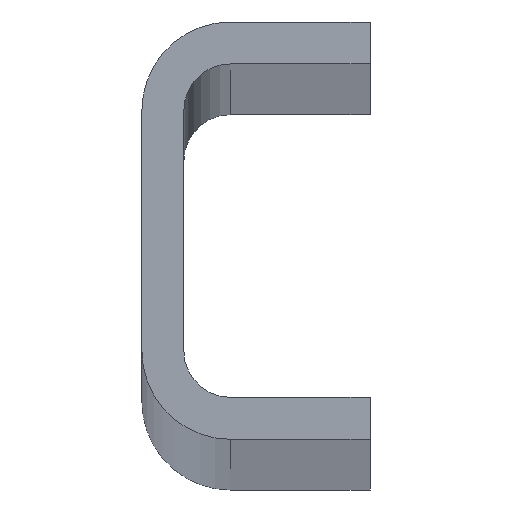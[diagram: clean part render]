
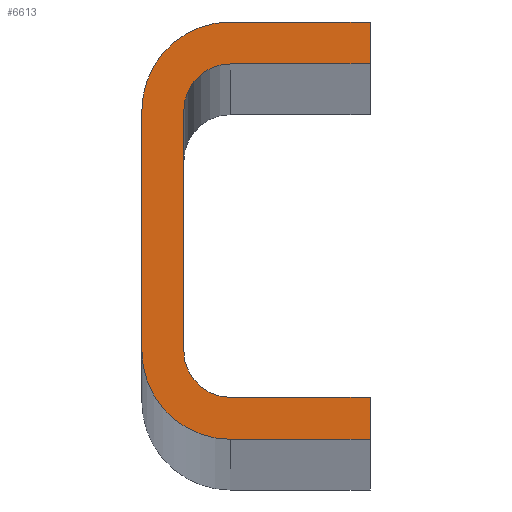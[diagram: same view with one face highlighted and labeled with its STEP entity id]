
A CAD part, top view. The second image highlights one B-rep face of the part: STEP entity #6613.
In plain terms, the highlighted planar face has unit normal (0, 0, 1).
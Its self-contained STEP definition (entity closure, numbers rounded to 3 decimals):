
#22 = DIRECTION ( 'NONE',  ( 1., 0., 0. ) ) ;
#177 = AXIS2_PLACEMENT_3D ( 'NONE', #3011, #840, #5262 ) ;
#234 = CARTESIAN_POINT ( 'NONE',  ( 9.5, -22.4, 0. ) ) ;
#306 = AXIS2_PLACEMENT_3D ( 'NONE', #6710, #2228, #5486 ) ;
#499 = VECTOR ( 'NONE', #5797, 1000. ) ;
#632 = CARTESIAN_POINT ( 'NONE',  ( 24.5, 22.4, 0. ) ) ;
#650 = CIRCLE ( 'NONE', #4773, 5. ) ;
#688 = LINE ( 'NONE', #2931, #4188 ) ;
#769 = DIRECTION ( 'NONE',  ( -1., 0., 0. ) ) ;
#840 = DIRECTION ( 'NONE',  ( 0., 0., -1. ) ) ;
#893 = EDGE_CURVE ( 'NONE', #6571, #5683, #3435, .T. ) ;
#927 = LINE ( 'NONE', #7208, #4386 ) ;
#993 = CARTESIAN_POINT ( 'NONE',  ( 4.5, -12.9, 0. ) ) ;
#1026 = PLANE ( 'NONE',  #306 ) ;
#1221 = LINE ( 'NONE', #632, #5092 ) ;
#1304 = ORIENTED_EDGE ( 'NONE', *, *, #893, .T. ) ;
#1519 = VERTEX_POINT ( 'NONE', #6818 ) ;
#1604 = VECTOR ( 'NONE', #769, 1000. ) ;
#1752 = CARTESIAN_POINT ( 'NONE',  ( 0., 12.9, 0. ) ) ;
#1923 = LINE ( 'NONE', #3620, #499 ) ;
#1987 = ORIENTED_EDGE ( 'NONE', *, *, #2776, .T. ) ;
#2070 = EDGE_CURVE ( 'NONE', #3218, #7287, #1923, .T. ) ;
#2077 = VERTEX_POINT ( 'NONE', #2985 ) ;
#2153 = AXIS2_PLACEMENT_3D ( 'NONE', #4117, #4704, #6943 ) ;
#2165 = CARTESIAN_POINT ( 'NONE',  ( 9.5, 17.9, 0. ) ) ;
#2228 = DIRECTION ( 'NONE',  ( 0., 0., 1. ) ) ;
#2243 = ORIENTED_EDGE ( 'NONE', *, *, #2070, .T. ) ;
#2386 = CIRCLE ( 'NONE', #2153, 9.5 ) ;
#2399 = ORIENTED_EDGE ( 'NONE', *, *, #6170, .T. ) ;
#2402 = ORIENTED_EDGE ( 'NONE', *, *, #3030, .T. ) ;
#2473 = EDGE_CURVE ( 'NONE', #4201, #3218, #927, .T. ) ;
#2609 = ORIENTED_EDGE ( 'NONE', *, *, #4248, .T. ) ;
#2685 = VERTEX_POINT ( 'NONE', #5009 ) ;
#2776 = EDGE_CURVE ( 'NONE', #5683, #5075, #2386, .T. ) ;
#2931 = CARTESIAN_POINT ( 'NONE',  ( 24.5, -22.4, 0. ) ) ;
#2985 = CARTESIAN_POINT ( 'NONE',  ( 24.5, -17.9, 0. ) ) ;
#2998 = CIRCLE ( 'NONE', #4295, 9.5 ) ;
#3011 = CARTESIAN_POINT ( 'NONE',  ( 9.5, -12.9, 0. ) ) ;
#3030 = EDGE_CURVE ( 'NONE', #2685, #7096, #3082, .T. ) ;
#3082 = LINE ( 'NONE', #993, #6404 ) ;
#3218 = VERTEX_POINT ( 'NONE', #5290 ) ;
#3231 = DIRECTION ( 'NONE',  ( 0., 1., 0. ) ) ;
#3276 = CARTESIAN_POINT ( 'NONE',  ( 24.5, -22.4, 0. ) ) ;
#3299 = CARTESIAN_POINT ( 'NONE',  ( 0., 12.9, 0. ) ) ;
#3355 = CARTESIAN_POINT ( 'NONE',  ( 0., -12.9, 0. ) ) ;
#3369 = DIRECTION ( 'NONE',  ( 1., 0., 0. ) ) ;
#3377 = EDGE_CURVE ( 'NONE', #7287, #4458, #1221, .T. ) ;
#3396 = ORIENTED_EDGE ( 'NONE', *, *, #6250, .T. ) ;
#3435 = LINE ( 'NONE', #1752, #5795 ) ;
#3620 = CARTESIAN_POINT ( 'NONE',  ( 24.5, 17.9, 0. ) ) ;
#3686 = DIRECTION ( 'NONE',  ( 1., 0., 0. ) ) ;
#3790 = DIRECTION ( 'NONE',  ( -1., 0., 0. ) ) ;
#3919 = LINE ( 'NONE', #6175, #5135 ) ;
#3932 = DIRECTION ( 'NONE',  ( 0., 0., -1. ) ) ;
#4116 = CARTESIAN_POINT ( 'NONE',  ( 24.5, -17.9, 0. ) ) ;
#4117 = CARTESIAN_POINT ( 'NONE',  ( 9.5, -12.9, 0. ) ) ;
#4188 = VECTOR ( 'NONE', #6262, 1000. ) ;
#4201 = VERTEX_POINT ( 'NONE', #2165 ) ;
#4248 = EDGE_CURVE ( 'NONE', #6207, #2077, #688, .T. ) ;
#4259 = CARTESIAN_POINT ( 'NONE',  ( 9.5, 22.4, 0. ) ) ;
#4295 = AXIS2_PLACEMENT_3D ( 'NONE', #4528, #6131, #22 ) ;
#4386 = VECTOR ( 'NONE', #3686, 1000. ) ;
#4442 = DIRECTION ( 'NONE',  ( 0., -1., 0. ) ) ;
#4445 = FACE_OUTER_BOUND ( 'NONE', #6722, .T. ) ;
#4458 = VERTEX_POINT ( 'NONE', #4259 ) ;
#4528 = CARTESIAN_POINT ( 'NONE',  ( 9.5, 12.9, 0. ) ) ;
#4628 = LINE ( 'NONE', #4116, #1604 ) ;
#4659 = ORIENTED_EDGE ( 'NONE', *, *, #2473, .T. ) ;
#4704 = DIRECTION ( 'NONE',  ( 0., 0., 1. ) ) ;
#4773 = AXIS2_PLACEMENT_3D ( 'NONE', #6750, #3932, #3790 ) ;
#5009 = CARTESIAN_POINT ( 'NONE',  ( 4.5, -12.9, 0. ) ) ;
#5045 = ORIENTED_EDGE ( 'NONE', *, *, #5663, .T. ) ;
#5075 = VERTEX_POINT ( 'NONE', #234 ) ;
#5092 = VECTOR ( 'NONE', #5726, 1000. ) ;
#5135 = VECTOR ( 'NONE', #3369, 1000. ) ;
#5262 = DIRECTION ( 'NONE',  ( -1., 0., 0. ) ) ;
#5290 = CARTESIAN_POINT ( 'NONE',  ( 24.5, 17.9, 0. ) ) ;
#5486 = DIRECTION ( 'NONE',  ( 1., 0., 0. ) ) ;
#5663 = EDGE_CURVE ( 'NONE', #4458, #6571, #2998, .T. ) ;
#5683 = VERTEX_POINT ( 'NONE', #3355 ) ;
#5686 = ORIENTED_EDGE ( 'NONE', *, *, #3377, .T. ) ;
#5726 = DIRECTION ( 'NONE',  ( -1., 0., 0. ) ) ;
#5795 = VECTOR ( 'NONE', #4442, 1000. ) ;
#5797 = DIRECTION ( 'NONE',  ( 0., 1., 0. ) ) ;
#5964 = CARTESIAN_POINT ( 'NONE',  ( 4.5, 12.9, 0. ) ) ;
#6131 = DIRECTION ( 'NONE',  ( 0., 0., 1. ) ) ;
#6170 = EDGE_CURVE ( 'NONE', #7096, #4201, #650, .T. ) ;
#6175 = CARTESIAN_POINT ( 'NONE',  ( 9.5, -22.4, 0. ) ) ;
#6199 = CIRCLE ( 'NONE', #177, 5. ) ;
#6207 = VERTEX_POINT ( 'NONE', #3276 ) ;
#6226 = ORIENTED_EDGE ( 'NONE', *, *, #6449, .T. ) ;
#6250 = EDGE_CURVE ( 'NONE', #2077, #1519, #4628, .T. ) ;
#6262 = DIRECTION ( 'NONE',  ( 0., 1., 0. ) ) ;
#6362 = CARTESIAN_POINT ( 'NONE',  ( 24.5, 22.4, 0. ) ) ;
#6371 = ORIENTED_EDGE ( 'NONE', *, *, #7220, .T. ) ;
#6404 = VECTOR ( 'NONE', #3231, 1000. ) ;
#6449 = EDGE_CURVE ( 'NONE', #1519, #2685, #6199, .T. ) ;
#6571 = VERTEX_POINT ( 'NONE', #3299 ) ;
#6613 = ADVANCED_FACE ( 'NONE', ( #4445 ), #1026, .T. ) ;
#6710 = CARTESIAN_POINT ( 'NONE',  ( 9.5, 12.9, 0. ) ) ;
#6722 = EDGE_LOOP ( 'NONE', ( #4659, #2243, #5686, #5045, #1304, #1987, #6371, #2609, #3396, #6226, #2402, #2399 ) ) ;
#6750 = CARTESIAN_POINT ( 'NONE',  ( 9.5, 12.9, 0. ) ) ;
#6818 = CARTESIAN_POINT ( 'NONE',  ( 9.5, -17.9, 0. ) ) ;
#6943 = DIRECTION ( 'NONE',  ( 1., 0., 0. ) ) ;
#7096 = VERTEX_POINT ( 'NONE', #5964 ) ;
#7208 = CARTESIAN_POINT ( 'NONE',  ( 9.5, 17.9, 0. ) ) ;
#7220 = EDGE_CURVE ( 'NONE', #5075, #6207, #3919, .T. ) ;
#7287 = VERTEX_POINT ( 'NONE', #6362 ) ;
